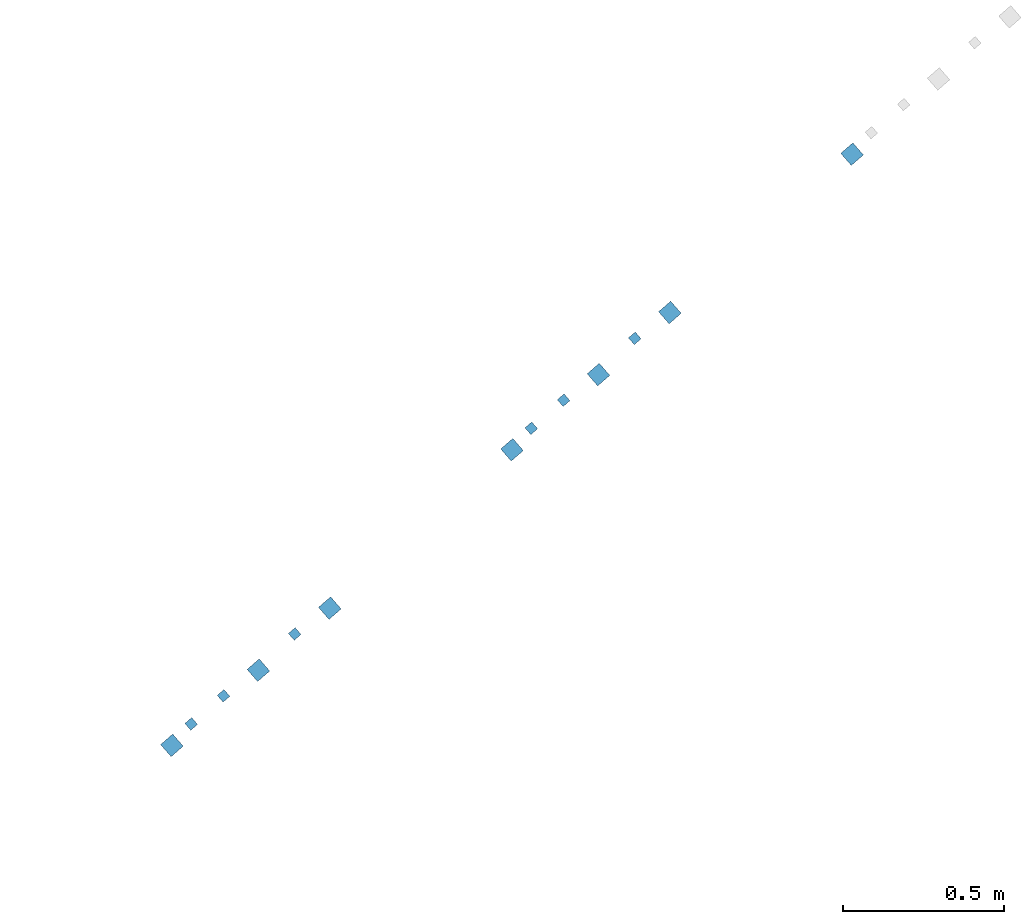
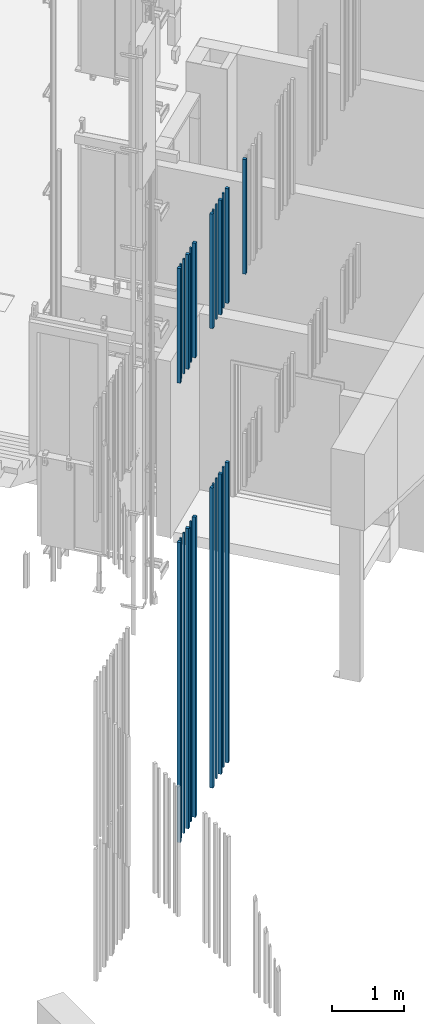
# One storey, part 29 of 124: 25 walls.
"""IFC2X3 building model written with IfcOpenShell, lengths in millimetres."""

from ifc_helpers import new_model, entity, si_unit, converted_unit, derived_unit, money_unit, direction, frame, origin_with_axes, place, context, subcontext, project, spatial, faceted_brep, material, type_object, element, save


model = new_model("IFC2X3")

# Units and contexts
model_context = context("Model", 3, precision=1e-05, world=origin_with_axes(), true_north=direction((0.0, 1.0)))
body_context = subcontext(model_context, "Body", "Model", "MODEL_VIEW")
ifc_project = project(units=[si_unit("LENGTHUNIT", "METRE", prefix="MILLI"), si_unit("AREAUNIT", "SQUARE_METRE"), si_unit("VOLUMEUNIT", "CUBIC_METRE"), converted_unit("PLANEANGLEUNIT", "DEGREE", entity("IfcPlaneAngleMeasure", 0.0174532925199), si_unit("PLANEANGLEUNIT", "RADIAN"), dimensions=[0, 0, 0, 0, 0, 0, 0]), si_unit("SOLIDANGLEUNIT", "STERADIAN"), money_unit("EUR"), converted_unit("TIMEUNIT", "Year", entity("IfcTimeMeasure", 31556926.0), si_unit("TIMEUNIT", "SECOND"), dimensions=[0, 0, 1, 0, 0, 0, 0]), si_unit("MASSUNIT", "GRAM", prefix="KILO"), si_unit("THERMODYNAMICTEMPERATUREUNIT", "DEGREE_CELSIUS"), si_unit("LUMINOUSINTENSITYUNIT", "LUMEN"), si_unit("ENERGYUNIT", "JOULE", prefix="MEGA"), derived_unit("THERMALCONDUCTANCEUNIT", [(si_unit("POWERUNIT", "WATT"), 1), (si_unit("LENGTHUNIT", "METRE"), -1), (si_unit("THERMODYNAMICTEMPERATUREUNIT", "KELVIN"), -1)]), derived_unit("SPECIFICHEATCAPACITYUNIT", [(si_unit("ENERGYUNIT", "JOULE"), 1), (si_unit("MASSUNIT", "GRAM", prefix="KILO"), -1), (si_unit("THERMODYNAMICTEMPERATUREUNIT", "KELVIN"), -1)]), derived_unit("MASSDENSITYUNIT", [(si_unit("MASSUNIT", "GRAM", prefix="KILO"), 1), (si_unit("VOLUMEUNIT", "CUBIC_METRE"), -1)])], contexts=[model_context])

# Site, building, storey
site_placement = place(None, origin_with_axes())
site = spatial("IfcSite", under=ifc_project, at=site_placement, Name="Site", CompositionType="ELEMENT")
building_placement = place(site_placement, origin_with_axes())
building = spatial("IfcBuilding", under=site, at=building_placement, Name="Building", CompositionType="ELEMENT")
storey_placement = place(building_placement, frame((0.0, 0.0, -1615.0), z_axis=(0.0, 0.0, 1.0), x_axis=(1.0, 0.0, 0.0)))
storey = spatial("IfcBuildingStorey", under=building, at=storey_placement, Name="0  korrus", CompositionType="ELEMENT", Elevation=-1615.0)

# Walls
ifc_material = material(Name="Site specified")
wall_type = type_object("IfcWallType", Name="Puitfassaadi ribistik", PredefinedType="NOTDEFINED")
wall_1_placement = place(storey_placement, frame((144013.107493, 69833.8762108, 9530.0), z_axis=(0.0, 0.0, 1.0), x_axis=(-0.754709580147, -0.656059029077, 0.0)))
element("IfcWall", 1, at=wall_1_placement, inside=storey, type_object=wall_type, material=ifc_material, Name="Site specified", context=body_context, shape_type="Brep", body=[
    faceted_brep([(14.0, 14.0, 1950.0), (14.0, 14.0, 0.0), (-14.0, 14.0, 0.0), (-14.0, 14.0, 1950.0), (14.0, -14.0, 1950.0), (14.0, -14.0, 0.0), (-14.0, -14.0, 0.0), (-14.0, -14.0, 1950.0)], [[[0, 1, 2, 3]], [[4, 5, 1, 0]], [[2, 1, 5, 6]], [[3, 2, 6, 7]], [[4, 0, 3, 7]], [[7, 6, 5, 4]]]),
])
for number, where, z_axis, x_axis, name in (
    (2, (143852.776224, 69679.9272216, 9530.0), (0.0, 0.0, 1.0), (-0.754709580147, -0.656059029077, 0.0), "Site specified"),
    (3, (144121.457086, 69913.4879317, 9530.0), (0.0, 0.0, 1.0), (-0.754709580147, -0.656059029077, 0.0), "Site specified"),
):
    element("IfcWall", number, at=place(storey_placement, frame(where, z_axis=z_axis, x_axis=x_axis)), inside=storey, type_object=wall_type, material=ifc_material, Name=name, context=body_context, shape_type="Brep", body=[
        faceted_brep([(25.0, 25.0, 1950.0), (25.0, 25.0, 0.0), (-25.0, 25.0, 0.0), (-25.0, 25.0, 1950.0), (25.0, -25.0, 1950.0), (25.0, -25.0, 0.0), (-25.0, -25.0, 0.0), (-25.0, -25.0, 1950.0)], [[[0, 1, 2, 3]], [[4, 5, 1, 0]], [[2, 1, 5, 6]], [[3, 2, 6, 7]], [[4, 0, 3, 7]], [[7, 6, 5, 4]]]),
    ])
wall_2_placement = place(storey_placement, frame((144121.457086, 69913.4879317, 1715.0), z_axis=(0.0, 0.0, 1.0), x_axis=(-0.754709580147, -0.656059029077, 0.0)))
element("IfcWall", 4, at=wall_2_placement, inside=storey, type_object=wall_type, material=ifc_material, Name="Site specified", context=body_context, shape_type="Brep", body=[
    faceted_brep([(25.0, 25.0, 5106.0), (25.0, 25.0, 0.0), (-25.0, 25.0, 0.0), (-25.0, 25.0, 5106.0), (25.0, -25.0, 5106.0), (25.0, -25.0, 0.0), (-25.0, -25.0, 0.0), (-25.0, -25.0, 5106.0)], [[[0, 1, 2, 3]], [[4, 5, 1, 0]], [[2, 1, 5, 6]], [[3, 2, 6, 7]], [[4, 0, 3, 7]], [[7, 6, 5, 4]]]),
])
wall_3_placement = place(storey_placement, frame((143912.73112, 69746.6203605, 9530.0), z_axis=(0.0, 0.0, 1.0), x_axis=(-0.754709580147, -0.656059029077, 0.0)))
element("IfcWall", 5, at=wall_3_placement, inside=storey, type_object=wall_type, material=ifc_material, Name="Site specified", context=body_context, shape_type="Brep", body=[
    faceted_brep([(14.0, 14.0, 1950.0), (14.0, 14.0, 0.0), (-14.0, 14.0, 0.0), (-14.0, 14.0, 1950.0), (14.0, -14.0, 1950.0), (14.0, -14.0, 0.0), (-14.0, -14.0, 0.0), (-14.0, -14.0, 1950.0)], [[[0, 1, 2, 3]], [[4, 5, 1, 0]], [[2, 1, 5, 6]], [[3, 2, 6, 7]], [[4, 0, 3, 7]], [[7, 6, 5, 4]]]),
])
wall_4_placement = place(storey_placement, frame((144343.341701, 70106.3692848, 9530.0), z_axis=(0.0, 0.0, 1.0), x_axis=(-0.754709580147, -0.656059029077, 0.0)))
element("IfcWall", 6, at=wall_4_placement, inside=storey, type_object=wall_type, material=ifc_material, Name="Site specified", context=body_context, shape_type="Brep", body=[
    faceted_brep([(25.0, 25.0, 1950.0), (25.0, 25.0, 0.0), (-25.0, 25.0, 0.0), (-25.0, 25.0, 1950.0), (25.0, -25.0, 1950.0), (25.0, -25.0, 0.0), (-25.0, -25.0, 0.0), (-25.0, -25.0, 1950.0)], [[[0, 1, 2, 3]], [[4, 5, 1, 0]], [[2, 1, 5, 6]], [[3, 2, 6, 7]], [[4, 0, 3, 7]], [[7, 6, 5, 4]]]),
])
wall_5_placement = place(storey_placement, frame((144234.237378, 70026.1014874, 9530.0), z_axis=(0.0, 0.0, 1.0), x_axis=(-0.754709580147, -0.656059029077, 0.0)))
element("IfcWall", 7, at=wall_5_placement, inside=storey, type_object=wall_type, material=ifc_material, Name="Site specified", context=body_context, shape_type="Brep", body=[
    faceted_brep([(14.0, 14.0, 1950.0), (14.0, 14.0, 0.0), (-14.0, 14.0, 0.0), (-14.0, 14.0, 1950.0), (14.0, -14.0, 1950.0), (14.0, -14.0, 0.0), (-14.0, -14.0, 0.0), (-14.0, -14.0, 1950.0)], [[[0, 1, 2, 3]], [[4, 5, 1, 0]], [[2, 1, 5, 6]], [[3, 2, 6, 7]], [[4, 0, 3, 7]], [[7, 6, 5, 4]]]),
])
for number, where, z_axis, x_axis, name in (
    (8, (143852.776224, 69679.9272216, 1715.0), (0.0, 0.0, 1.0), (-0.754709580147, -0.656059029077, 0.0), "Site specified"),
    (9, (144343.341701, 70106.3692848, 1715.0), (0.0, 0.0, 1.0), (-0.754709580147, -0.656059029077, 0.0), "Site specified"),
):
    element("IfcWall", number, at=place(storey_placement, frame(where, z_axis=z_axis, x_axis=x_axis)), inside=storey, type_object=wall_type, material=ifc_material, Name=name, context=body_context, shape_type="Brep", body=[
        faceted_brep([(25.0, 25.0, 5106.0), (25.0, 25.0, 0.0), (-25.0, 25.0, 0.0), (-25.0, 25.0, 5106.0), (25.0, -25.0, 5106.0), (25.0, -25.0, 0.0), (-25.0, -25.0, 0.0), (-25.0, -25.0, 5106.0)], [[[0, 1, 2, 3]], [[4, 5, 1, 0]], [[2, 1, 5, 6]], [[3, 2, 6, 7]], [[4, 0, 3, 7]], [[7, 6, 5, 4]]]),
    ])
for number, where, z_axis, x_axis, name in (
    (10, (144234.237378, 70026.1014874, 1715.0), (0.0, 0.0, 1.0), (-0.754709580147, -0.656059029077, 0.0), "Site specified"),
    (11, (143912.73112, 69746.6203605, 1715.0), (0.0, 0.0, 1.0), (-0.754709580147, -0.656059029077, 0.0), "Site specified"),
    (12, (144013.107493, 69833.8762108, 1715.0), (0.0, 0.0, 1.0), (-0.754709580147, -0.656059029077, 0.0), "Site specified"),
):
    element("IfcWall", number, at=place(storey_placement, frame(where, z_axis=z_axis, x_axis=x_axis)), inside=storey, type_object=wall_type, material=ifc_material, Name=name, context=body_context, shape_type="Brep", body=[
        faceted_brep([(14.0, 14.0, 5106.0), (14.0, 14.0, 0.0), (-14.0, 14.0, 0.0), (-14.0, 14.0, 5106.0), (14.0, -14.0, 5106.0), (14.0, -14.0, 0.0), (-14.0, -14.0, 0.0), (-14.0, -14.0, 5106.0)], [[[0, 1, 2, 3]], [[4, 5, 1, 0]], [[2, 1, 5, 6]], [[3, 2, 6, 7]], [[4, 0, 3, 7]], [[7, 6, 5, 4]]]),
    ])
wall_6_placement = place(storey_placement, frame((144909.369636, 70598.4098622, 9530.0), z_axis=(0.0, 0.0, 1.0), x_axis=(-0.754709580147, -0.656059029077, 0.0)))
element("IfcWall", 13, at=wall_6_placement, inside=storey, type_object=wall_type, material=ifc_material, Name="Site specified", context=body_context, shape_type="Brep", body=[
    faceted_brep([(25.0, 25.0, 1950.0), (25.0, 25.0, 0.0), (-25.0, 25.0, 0.0), (-25.0, 25.0, 1950.0), (25.0, -25.0, 1950.0), (25.0, -25.0, 0.0), (-25.0, -25.0, 0.0), (-25.0, -25.0, 1950.0)], [[[0, 1, 2, 3]], [[4, 5, 1, 0]], [[2, 1, 5, 6]], [[3, 2, 6, 7]], [[4, 0, 3, 7]], [[7, 6, 5, 4]]]),
])
wall_7_placement = place(storey_placement, frame((142956.514081, 68915.3935702, 9530.0), z_axis=(0.0, 0.0, 1.0), x_axis=(-0.754709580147, -0.656059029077, 0.0)))
element("IfcWall", 14, at=wall_7_placement, inside=storey, type_object=wall_type, material=ifc_material, Name="Site specified", context=body_context, shape_type="Brep", body=[
    faceted_brep([(14.0, 14.0, 1950.0), (14.0, 14.0, 0.0), (-14.0, 14.0, 0.0), (-14.0, 14.0, 1950.0), (14.0, -14.0, 1950.0), (14.0, -14.0, 0.0), (-14.0, -14.0, 0.0), (-14.0, -14.0, 1950.0)], [[[0, 1, 2, 3]], [[4, 5, 1, 0]], [[2, 1, 5, 6]], [[3, 2, 6, 7]], [[4, 0, 3, 7]], [[7, 6, 5, 4]]]),
])
wall_8_placement = place(storey_placement, frame((142796.182811, 68761.4445809, 9530.0), z_axis=(0.0, 0.0, 1.0), x_axis=(-0.754709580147, -0.656059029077, 0.0)))
element("IfcWall", 15, at=wall_8_placement, inside=storey, type_object=wall_type, material=ifc_material, Name="Site specified", context=body_context, shape_type="Brep", body=[
    faceted_brep([(25.0, 25.0, 1950.0), (25.0, 25.0, 0.0), (-25.0, 25.0, 0.0), (-25.0, 25.0, 1950.0), (25.0, -25.0, 1950.0), (25.0, -25.0, 0.0), (-25.0, -25.0, 0.0), (-25.0, -25.0, 1950.0)], [[[0, 1, 2, 3]], [[4, 5, 1, 0]], [[2, 1, 5, 6]], [[3, 2, 6, 7]], [[4, 0, 3, 7]], [[7, 6, 5, 4]]]),
])
for number, where, z_axis, x_axis, name in (
    (16, (142796.182811, 68761.4445809, 1715.0), (0.0, 0.0, 1.0), (-0.754709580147, -0.656059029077, 0.0), "Site specified"),
    (17, (143064.863673, 68995.005291, 1715.0), (0.0, 0.0, 1.0), (-0.754709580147, -0.656059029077, 0.0), "Site specified"),
):
    element("IfcWall", number, at=place(storey_placement, frame(where, z_axis=z_axis, x_axis=x_axis)), inside=storey, type_object=wall_type, material=ifc_material, Name=name, context=body_context, shape_type="Brep", body=[
        faceted_brep([(25.0, 25.0, 5106.0), (25.0, 25.0, 0.0), (-25.0, 25.0, 0.0), (-25.0, 25.0, 5106.0), (25.0, -25.0, 5106.0), (25.0, -25.0, 0.0), (-25.0, -25.0, 0.0), (-25.0, -25.0, 5106.0)], [[[0, 1, 2, 3]], [[4, 5, 1, 0]], [[2, 1, 5, 6]], [[3, 2, 6, 7]], [[4, 0, 3, 7]], [[7, 6, 5, 4]]]),
    ])
wall_9_placement = place(storey_placement, frame((143177.643966, 69107.6188467, 9530.0), z_axis=(0.0, 0.0, 1.0), x_axis=(-0.754709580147, -0.656059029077, 0.0)))
element("IfcWall", 18, at=wall_9_placement, inside=storey, type_object=wall_type, material=ifc_material, Name="Site specified", context=body_context, shape_type="Brep", body=[
    faceted_brep([(14.0, 14.0, 1950.0), (14.0, 14.0, 0.0), (-14.0, 14.0, 0.0), (-14.0, 14.0, 1950.0), (14.0, -14.0, 1950.0), (14.0, -14.0, 0.0), (-14.0, -14.0, 0.0), (-14.0, -14.0, 1950.0)], [[[0, 1, 2, 3]], [[4, 5, 1, 0]], [[2, 1, 5, 6]], [[3, 2, 6, 7]], [[4, 0, 3, 7]], [[7, 6, 5, 4]]]),
])
wall_10_placement = place(storey_placement, frame((143286.748288, 69187.8866441, 9530.0), z_axis=(0.0, 0.0, 1.0), x_axis=(-0.754709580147, -0.656059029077, 0.0)))
element("IfcWall", 19, at=wall_10_placement, inside=storey, type_object=wall_type, material=ifc_material, Name="Site specified", context=body_context, shape_type="Brep", body=[
    faceted_brep([(25.0, 25.0, 1950.0), (25.0, 25.0, 0.0), (-25.0, 25.0, 0.0), (-25.0, 25.0, 1950.0), (25.0, -25.0, 1950.0), (25.0, -25.0, 0.0), (-25.0, -25.0, 0.0), (-25.0, -25.0, 1950.0)], [[[0, 1, 2, 3]], [[4, 5, 1, 0]], [[2, 1, 5, 6]], [[3, 2, 6, 7]], [[4, 0, 3, 7]], [[7, 6, 5, 4]]]),
])
for number, where, z_axis, x_axis, name in (
    (20, (142956.514081, 68915.3935702, 1715.0), (0.0, 0.0, 1.0), (-0.754709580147, -0.656059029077, 0.0), "Site specified"),
    (21, (143177.643966, 69107.6188467, 1715.0), (0.0, 0.0, 1.0), (-0.754709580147, -0.656059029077, 0.0), "Site specified"),
):
    element("IfcWall", number, at=place(storey_placement, frame(where, z_axis=z_axis, x_axis=x_axis)), inside=storey, type_object=wall_type, material=ifc_material, Name=name, context=body_context, shape_type="Brep", body=[
        faceted_brep([(14.0, 14.0, 5106.0), (14.0, 14.0, 0.0), (-14.0, 14.0, 0.0), (-14.0, 14.0, 5106.0), (14.0, -14.0, 5106.0), (14.0, -14.0, 0.0), (-14.0, -14.0, 0.0), (-14.0, -14.0, 5106.0)], [[[0, 1, 2, 3]], [[4, 5, 1, 0]], [[2, 1, 5, 6]], [[3, 2, 6, 7]], [[4, 0, 3, 7]], [[7, 6, 5, 4]]]),
    ])
wall_11_placement = place(storey_placement, frame((143286.748288, 69187.8866441, 1715.0), z_axis=(0.0, 0.0, 1.0), x_axis=(-0.754709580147, -0.656059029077, 0.0)))
element("IfcWall", 22, at=wall_11_placement, inside=storey, type_object=wall_type, material=ifc_material, Name="Site specified", context=body_context, shape_type="Brep", body=[
    faceted_brep([(25.0, 25.0, 5106.0), (25.0, 25.0, 0.0), (-25.0, 25.0, 0.0), (-25.0, 25.0, 5106.0), (25.0, -25.0, 5106.0), (25.0, -25.0, 0.0), (-25.0, -25.0, 0.0), (-25.0, -25.0, 5106.0)], [[[0, 1, 2, 3]], [[4, 5, 1, 0]], [[2, 1, 5, 6]], [[3, 2, 6, 7]], [[4, 0, 3, 7]], [[7, 6, 5, 4]]]),
])
wall_12_placement = place(storey_placement, frame((142856.137707, 68828.1377198, 1715.0), z_axis=(0.0, 0.0, 1.0), x_axis=(-0.754709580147, -0.656059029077, 0.0)))
element("IfcWall", 23, at=wall_12_placement, inside=storey, type_object=wall_type, material=ifc_material, Name="Site specified", context=body_context, shape_type="Brep", body=[
    faceted_brep([(14.0, 14.0, 5106.0), (14.0, 14.0, 0.0), (-14.0, 14.0, 0.0), (-14.0, 14.0, 5106.0), (14.0, -14.0, 5106.0), (14.0, -14.0, 0.0), (-14.0, -14.0, 0.0), (-14.0, -14.0, 5106.0)], [[[0, 1, 2, 3]], [[4, 5, 1, 0]], [[2, 1, 5, 6]], [[3, 2, 6, 7]], [[4, 0, 3, 7]], [[7, 6, 5, 4]]]),
])
wall_13_placement = place(storey_placement, frame((143064.863673, 68995.005291, 9530.0), z_axis=(0.0, 0.0, 1.0), x_axis=(-0.754709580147, -0.656059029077, 0.0)))
element("IfcWall", 24, at=wall_13_placement, inside=storey, type_object=wall_type, material=ifc_material, Name="Site specified", context=body_context, shape_type="Brep", body=[
    faceted_brep([(25.0, 25.0, 1950.0), (25.0, 25.0, 0.0), (-25.0, 25.0, 0.0), (-25.0, 25.0, 1950.0), (25.0, -25.0, 1950.0), (25.0, -25.0, 0.0), (-25.0, -25.0, 0.0), (-25.0, -25.0, 1950.0)], [[[0, 1, 2, 3]], [[4, 5, 1, 0]], [[2, 1, 5, 6]], [[3, 2, 6, 7]], [[4, 0, 3, 7]], [[7, 6, 5, 4]]]),
])
wall_14_placement = place(storey_placement, frame((142856.137707, 68828.1377198, 9530.0), z_axis=(0.0, 0.0, 1.0), x_axis=(-0.754709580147, -0.656059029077, 0.0)))
element("IfcWall", 25, at=wall_14_placement, inside=storey, type_object=wall_type, material=ifc_material, Name="Site specified", context=body_context, shape_type="Brep", body=[
    faceted_brep([(14.0, 14.0, 1950.0), (14.0, 14.0, 0.0), (-14.0, 14.0, 0.0), (-14.0, 14.0, 1950.0), (14.0, -14.0, 1950.0), (14.0, -14.0, 0.0), (-14.0, -14.0, 0.0), (-14.0, -14.0, 1950.0)], [[[0, 1, 2, 3]], [[4, 5, 1, 0]], [[2, 1, 5, 6]], [[3, 2, 6, 7]], [[4, 0, 3, 7]], [[7, 6, 5, 4]]]),
])

save(model, "model.ifc")
